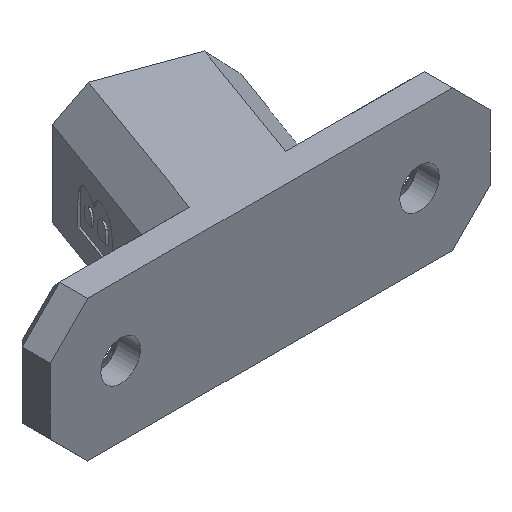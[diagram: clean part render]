
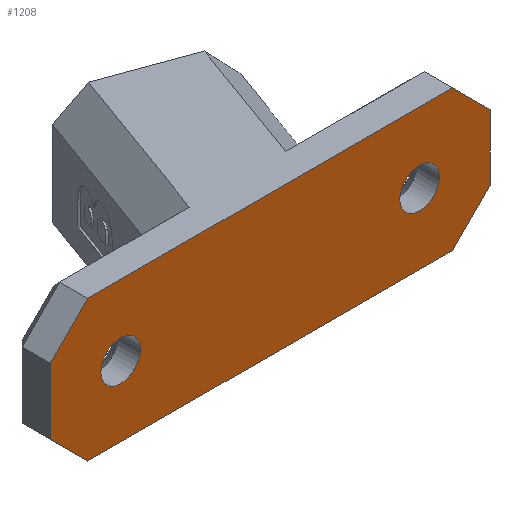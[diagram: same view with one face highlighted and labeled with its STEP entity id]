
A CAD part, isometric view. The second image highlights one B-rep face of the part: STEP entity #1208.
In plain terms, the highlighted planar face has unit normal (0, -1, 0).
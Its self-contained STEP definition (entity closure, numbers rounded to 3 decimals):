
#21=CIRCLE('',#1268,2.1);
#22=CIRCLE('',#1269,2.1);
#33=FACE_BOUND('',#224,.T.);
#34=FACE_BOUND('',#225,.T.);
#85=PLANE('',#1267);
#149=FACE_OUTER_BOUND('',#223,.T.);
#223=EDGE_LOOP('',(#1089,#1090,#1091,#1092,#1093,#1094,#1095,#1096));
#224=EDGE_LOOP('',(#1097));
#225=EDGE_LOOP('',(#1098));
#322=LINE('',#1945,#452);
#357=LINE('',#2019,#487);
#359=LINE('',#2023,#489);
#361=LINE('',#2027,#491);
#364=LINE('',#2032,#494);
#366=LINE('',#2036,#496);
#368=LINE('',#2040,#498);
#370=LINE('',#2043,#500);
#452=VECTOR('',#1414,10.);
#487=VECTOR('',#1481,10.);
#489=VECTOR('',#1485,10.);
#491=VECTOR('',#1489,10.);
#494=VECTOR('',#1494,10.);
#496=VECTOR('',#1498,10.);
#498=VECTOR('',#1502,10.);
#500=VECTOR('',#1506,10.);
#602=VERTEX_POINT('',#1942);
#603=VERTEX_POINT('',#1944);
#626=VERTEX_POINT('',#2017);
#627=VERTEX_POINT('',#2021);
#628=VERTEX_POINT('',#2025);
#629=VERTEX_POINT('',#2030);
#630=VERTEX_POINT('',#2035);
#631=VERTEX_POINT('',#2039);
#632=VERTEX_POINT('',#2045);
#633=VERTEX_POINT('',#2047);
#746=EDGE_CURVE('',#602,#603,#322,.T.);
#783=EDGE_CURVE('',#626,#602,#357,.T.);
#785=EDGE_CURVE('',#627,#626,#359,.T.);
#787=EDGE_CURVE('',#628,#627,#361,.T.);
#790=EDGE_CURVE('',#628,#629,#364,.T.);
#792=EDGE_CURVE('',#603,#630,#366,.T.);
#794=EDGE_CURVE('',#631,#630,#368,.T.);
#796=EDGE_CURVE('',#631,#629,#370,.T.);
#797=EDGE_CURVE('',#632,#632,#21,.T.);
#798=EDGE_CURVE('',#633,#633,#22,.T.);
#1089=ORIENTED_EDGE('',*,*,#792,.F.);
#1090=ORIENTED_EDGE('',*,*,#746,.F.);
#1091=ORIENTED_EDGE('',*,*,#783,.F.);
#1092=ORIENTED_EDGE('',*,*,#785,.F.);
#1093=ORIENTED_EDGE('',*,*,#787,.F.);
#1094=ORIENTED_EDGE('',*,*,#790,.T.);
#1095=ORIENTED_EDGE('',*,*,#796,.F.);
#1096=ORIENTED_EDGE('',*,*,#794,.T.);
#1097=ORIENTED_EDGE('',*,*,#797,.T.);
#1098=ORIENTED_EDGE('',*,*,#798,.T.);
#1208=ADVANCED_FACE('',(#149,#33,#34),#85,.T.);
#1267=AXIS2_PLACEMENT_3D('',#2044,#1507,#1508);
#1268=AXIS2_PLACEMENT_3D('',#2046,#1509,#1510);
#1269=AXIS2_PLACEMENT_3D('',#2048,#1511,#1512);
#1414=DIRECTION('',(1.,0.,0.));
#1481=DIRECTION('',(0.707,0.,0.707));
#1485=DIRECTION('',(0.,0.,1.));
#1489=DIRECTION('',(-0.707,0.,0.707));
#1494=DIRECTION('',(1.,0.,0.));
#1498=DIRECTION('',(0.707,0.,-0.707));
#1502=DIRECTION('',(0.,0.,1.));
#1506=DIRECTION('',(-0.707,0.,-0.707));
#1507=DIRECTION('center_axis',(0.,-1.,0.));
#1508=DIRECTION('ref_axis',(1.,0.,0.));
#1509=DIRECTION('center_axis',(0.,1.,0.));
#1510=DIRECTION('ref_axis',(-1.,0.,0.));
#1511=DIRECTION('center_axis',(0.,1.,0.));
#1512=DIRECTION('ref_axis',(-1.,0.,0.));
#1942=CARTESIAN_POINT('',(-109.027,-110.,15.));
#1944=CARTESIAN_POINT('',(-70.194,-110.,15.));
#1945=CARTESIAN_POINT('',(-113.027,-110.,15.));
#2017=CARTESIAN_POINT('',(-113.027,-110.,11.));
#2019=CARTESIAN_POINT('',(-114.777,-110.,9.25));
#2021=CARTESIAN_POINT('',(-113.027,-110.,4.));
#2023=CARTESIAN_POINT('',(-113.027,-110.,0.));
#2025=CARTESIAN_POINT('',(-109.027,-110.,0.));
#2027=CARTESIAN_POINT('',(-111.027,-110.,2.));
#2030=CARTESIAN_POINT('',(-70.194,-110.,0.));
#2032=CARTESIAN_POINT('',(-113.027,-110.,0.));
#2035=CARTESIAN_POINT('',(-66.194,-110.,11.));
#2036=CARTESIAN_POINT('',(-76.152,-110.,20.958));
#2039=CARTESIAN_POINT('',(-66.194,-110.,4.));
#2040=CARTESIAN_POINT('',(-66.194,-110.,0.));
#2043=CARTESIAN_POINT('',(-79.902,-110.,-9.708));
#2044=CARTESIAN_POINT('Origin',(-113.027,-110.,0.));
#2045=CARTESIAN_POINT('',(-103.427,-110.,7.5));
#2046=CARTESIAN_POINT('Origin',(-105.527,-110.,7.5));
#2047=CARTESIAN_POINT('',(-71.594,-110.,7.5));
#2048=CARTESIAN_POINT('Origin',(-73.694,-110.,7.5));
